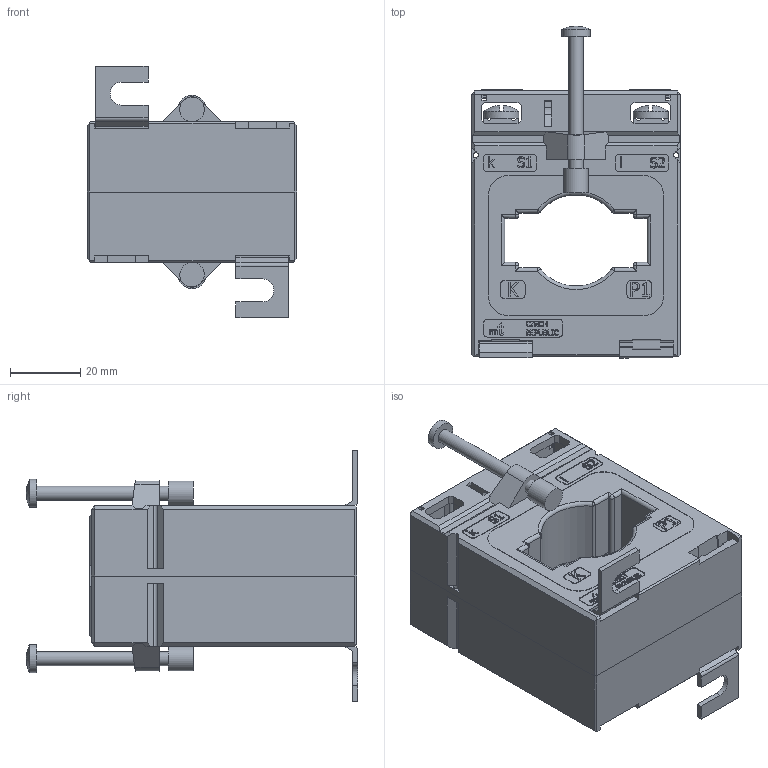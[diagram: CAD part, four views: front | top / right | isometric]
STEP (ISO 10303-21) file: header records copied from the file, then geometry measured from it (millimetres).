
FILE_DESCRIPTION(/* description */ (''),/* implementation_level */ '2;1');
FILE_NAME(/* name */ 'CLB 4.64.step',/* time_stamp */ '2024-10-11T21:03:44+02:00',/* author */ ('peter'),/* organization */ (''),/* preprocessor_version */ 'ST-DEVELOPER v20',/* originating_system */ 'Autodesk Inventor 2025',/* authorisation */ '');
FILE_SCHEMA (('AUTOMOTIVE_DESIGN { 1 0 10303 214 3 1 1 }'));
Length unit declared in the file: millimetre
Products named in the file (10): Current transformer CLB 4.64; Front plastic case CLB 4.64; Back plastic case CLB 4.64; Tape label CLB 4.64; Secondary terminal 28 CLB; Secondary terminal cover 37 CLB; Metal mounting foot CLB; Screw M5x8; Screw 4x45; Insulating cap
Assembly tree (17 placements, depth 2):
  Current transformer CLB 4.64
    Front plastic case CLB 4.64
    Back plastic case CLB 4.64
    Tape label CLB 4.64
    Secondary terminal 28 CLB  x2
    Secondary terminal cover 37 CLB  x2
    Metal mounting foot CLB  x2
    Screw M5x8  x4
    Screw 4x45  x2
    Insulating cap  x2
Bounding box: 59.5 x 94.34 x 71.5 mm (x, y, z)
Volume: 141657 mm3; surface area: 46503.9 mm2
Topology: 17 solids, 17 shells, 1691 faces, 4601 edges, 3024 vertices
Faces by surface type: plane 1090, bspline 365, cylinder 192, sphere 26, cone 14, torus 4
Full cylindrical faces by diameter (mm): 1.5 x4, 2.5 x2, 2.95 x2, 3 x4, 3.5 x2, 4 x4, 4.134 x4, 5 x4, 7 x2, 8 x2, 10 x4
Entity records: 49792 total; most frequent: CARTESIAN_POINT 13165, ORIENTED_EDGE 8244, DIRECTION 6056, EDGE_CURVE 4122, LINE 3036, VECTOR 3036, VERTEX_POINT 2713, EDGE_LOOP 1629
